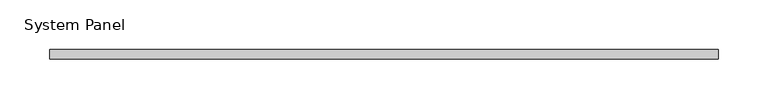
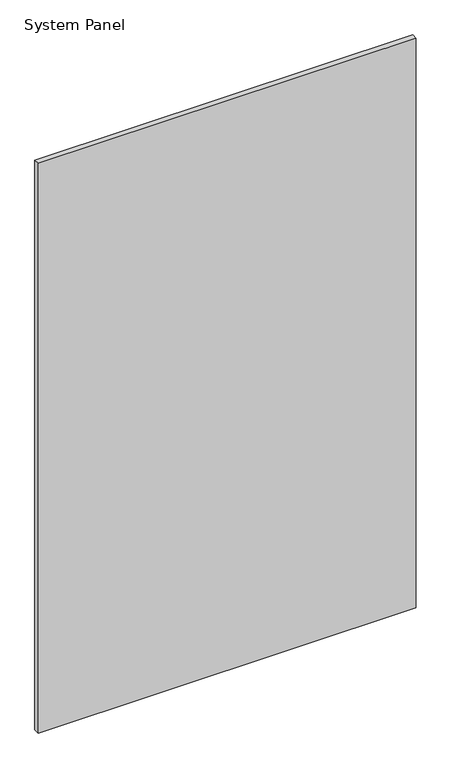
"""IFC4 building model written with IfcOpenShell, lengths in millimetres: plate geometry, System Panel : стекло_смещение_20."""

import ifcopenshell
import ifcopenshell.guid

model = None  # the IFC model being written
_history = None  # IfcOwnerHistory: only IFC2X3 demands one
_inside = {}  # id of a spatial element -> (the spatial element, [elements in it])
_under = {}  # id of a project, library or spatial element -> (it, [spatial elements below it])
_declared = {}  # id of a project -> (the project, [libraries it declares])
_typed = {}  # id of a type object -> (the type object, [elements of that type])
_made_of = {}  # id of a material, layer set ... -> (it, [elements and type objects made of it])


def new_model(schema):
    """Start an empty IFC model of exactly this schema.

    Asked for "IFC4X3", IfcOpenShell would pick the latest addendum, in which some entities
    have other attributes; the version numbers below select the first issue.
    IFC2X3 requires an IfcOwnerHistory on every rooted entity: one is made here for all.
    """
    global model, _history
    if schema == "IFC4X3":
        model = ifcopenshell.file(schema_version=(4, 3, 0, 0))
    else:
        model = ifcopenshell.file(schema=schema)
    _inside.clear()
    _under.clear()
    _declared.clear()
    _typed.clear()
    _made_of.clear()
    _history = None
    if model.schema == "IFC2X3":
        org = make("IfcOrganization", Name="unknown")
        user = make(
            "IfcPersonAndOrganization",
            ThePerson=make("IfcPerson", FamilyName="unknown"),
            TheOrganization=org,
        )
        app = make(
            "IfcApplication",
            ApplicationDeveloper=org,
            Version="unknown",
            ApplicationFullName="unknown",
            ApplicationIdentifier="unknown",
        )
        _history = make(
            "IfcOwnerHistory",
            OwningUser=user,
            OwningApplication=app,
            ChangeAction="ADDED",
            CreationDate=0,
        )
    return model


def make(cls, **values):
    """One entity of the class cls with the attributes given. An attribute that is None is left unset."""
    return model.create_entity(
        cls, **{name: value for name, value in values.items() if value is not None}
    )


def rooted(cls, **values):
    """An entity with a GlobalId (a new one), such as an element, a storey or a relation."""
    return make(cls, GlobalId=ifcopenshell.guid.new(), OwnerHistory=_history, **values)


def si_unit(unit_type, name, prefix=None):
    """IfcSIUnit, for example si_unit("LENGTHUNIT", "METRE", prefix="MILLI")."""
    return make("IfcSIUnit", UnitType=unit_type, Prefix=prefix, Name=name)


def assignment(units):
    """IfcUnitAssignment: the units of a project."""
    return None if units is None else make("IfcUnitAssignment", Units=units)


def point(xyz):
    """IfcCartesianPoint."""
    return None if xyz is None else make("IfcCartesianPoint", Coordinates=xyz)


def direction(xyz):
    """IfcDirection."""
    return None if xyz is None else make("IfcDirection", DirectionRatios=xyz)


def frame(location, z_axis=None, x_axis=None):
    """IfcAxis2Placement3D, a coordinate frame: its origin and axes. An axis left out is left unset."""
    return make(
        "IfcAxis2Placement3D",
        Location=point(location),
        Axis=direction(z_axis),
        RefDirection=direction(x_axis),
    )


def origin():
    """The frame at (0, 0, 0) with its axes left unset."""
    return frame((0.0, 0.0, 0.0))


def origin_with_axes():
    """The frame at (0, 0, 0) with the z axis (0, 0, 1) and the x axis (1, 0, 0) written out."""
    return frame((0.0, 0.0, 0.0), z_axis=(0.0, 0.0, 1.0), x_axis=(1.0, 0.0, 0.0))


def place(relative_to, where):
    """IfcLocalPlacement: puts the frame where relative to a parent placement (None: the world)."""
    return make(
        "IfcLocalPlacement", PlacementRelTo=relative_to, RelativePlacement=where
    )


def context(
    kind, dimensions, precision=None, world=None, true_north=None, identifier=None
):
    """IfcGeometricRepresentationContext, for example the 3D "Model" context."""
    return make(
        "IfcGeometricRepresentationContext",
        ContextIdentifier=identifier,
        ContextType=kind,
        CoordinateSpaceDimension=dimensions,
        Precision=precision,
        WorldCoordinateSystem=world,
        TrueNorth=true_north,
    )


def project(units=None, contexts=None):
    """IfcProject with its units and contexts."""
    return rooted(
        "IfcProject",
        Name="project",
        RepresentationContexts=contexts,
        UnitsInContext=assignment(units),
    )


def spatial(cls, under=None, at=None, **own):
    """A site, building, storey or space (cls), placed at a placement, below another one or the project."""
    s = rooted(cls, ObjectPlacement=at, **own)
    if under is not None:
        _under.setdefault(under.id(), (under, []))[1].append(s)
    return s


def polyline(points):
    """IfcPolyline through the points."""
    return make("IfcPolyline", Points=[point(p) for p in points])


def outline(outer, holes=None, kind="AREA"):
    """IfcArbitraryClosedProfileDef: a profile drawn as a closed curve; with holes, ...WithVoids."""
    if holes is None:
        return make("IfcArbitraryClosedProfileDef", ProfileType=kind, OuterCurve=outer)
    return make(
        "IfcArbitraryProfileDefWithVoids",
        ProfileType=kind,
        OuterCurve=outer,
        InnerCurves=holes,
    )


def extrude(swept, where, along, depth):
    """IfcExtrudedAreaSolid: the profile swept, set in the frame where, extruded along a direction by depth."""
    return make(
        "IfcExtrudedAreaSolid",
        SweptArea=swept,
        Position=where,
        ExtrudedDirection=direction(along),
        Depth=depth,
    )


def shape(context_of_items, identifier, shape_type, items):
    """IfcShapeRepresentation: the items that make up one representation, for example the "Body"."""
    return make(
        "IfcShapeRepresentation",
        ContextOfItems=context_of_items,
        RepresentationIdentifier=identifier,
        RepresentationType=shape_type,
        Items=items,
    )


def source(mapping_origin, context_of_items, identifier, shape_type, items):
    """IfcRepresentationMap: a shape defined once, which mapped items show again and again."""
    return make(
        "IfcRepresentationMap",
        MappingOrigin=mapping_origin,
        MappedRepresentation=shape(context_of_items, identifier, shape_type, items),
    )


def transform(
    local_origin,
    x_axis=None,
    y_axis=None,
    z_axis=None,
    scale=None,
    scale2=None,
    scale3=None,
    uniform=True,
):
    """IfcCartesianTransformationOperator3D, or its non-uniform kind. x_axis, y_axis, z_axis: its Axis1, 2, 3."""
    if uniform:
        return make(
            "IfcCartesianTransformationOperator3D",
            Axis1=direction(x_axis),
            Axis2=direction(y_axis),
            LocalOrigin=point(local_origin),
            Scale=scale,
            Axis3=direction(z_axis),
        )
    return make(
        "IfcCartesianTransformationOperator3DnonUniform",
        Axis1=direction(x_axis),
        Axis2=direction(y_axis),
        LocalOrigin=point(local_origin),
        Scale=scale,
        Axis3=direction(z_axis),
        Scale2=scale2,
        Scale3=scale3,
    )


def mapped(mapping_source, mapping_target):
    """IfcMappedItem: shows the shape of a source again, moved by a transform."""
    return make(
        "IfcMappedItem", MappingSource=mapping_source, MappingTarget=mapping_target
    )


def made_of(thing, what):
    """Note that an element or type object is made of a material, layer set ...; save() writes the relation."""
    if what is not None:
        _made_of.setdefault(what.id(), (what, []))[1].append(thing)
    return thing


def element(
    cls,
    number,
    at=None,
    inside=None,
    cuts=None,
    type_object=None,
    material=None,
    context=None,
    identifier="Body",
    shape_type=None,
    held_by="IfcProductDefinitionShape",
    body=None,
    shapes=None,
    **own,
):
    """One element of the class cls, such as IfcWall. Its Tag is "e" and its number.

    at: its placement. inside: the storey or other place that contains it. cuts: it is an
    opening in that element (IfcRelVoidsElement). A single representation is given by context,
    identifier, shape_type and body (its items); several are given by shapes. held_by: the class
    of the entity that holds the representations. save() writes the other relations.
    """
    e = rooted(cls, Tag="e%d" % number, ObjectPlacement=at, **own)
    if body is not None:
        shapes = [shape(context, identifier, shape_type, body)]
    if shapes is not None:
        e.Representation = make(held_by, Representations=shapes)
    if inside is not None:
        _inside.setdefault(inside.id(), (inside, []))[1].append(e)
    if cuts is not None:
        rooted(
            "IfcRelVoidsElement", RelatingBuildingElement=cuts, RelatedOpeningElement=e
        )
    if type_object is not None:
        _typed.setdefault(type_object.id(), (type_object, []))[1].append(e)
    return made_of(e, material)


def aggregate(whole, parts):
    """IfcRelAggregates: a whole, such as a stair, and the parts it consists of."""
    return rooted("IfcRelAggregates", RelatingObject=whole, RelatedObjects=parts)


def save(model, path):
    """Write the relations noted so far, then the file.

    IfcRelAggregates (storeys below a building ...), IfcRelContainedInSpatialStructure (elements
    in a storey), IfcRelDefinesByType, IfcRelAssociatesMaterial and IfcRelDeclares: one each for
    every whole, place, type object, material and project.
    """
    for whole, parts in _under.values():
        aggregate(whole, parts)
    for where, things in _inside.values():
        rooted(
            "IfcRelContainedInSpatialStructure",
            RelatedElements=things,
            RelatingStructure=where,
        )
    for kind, things in _typed.values():
        rooted("IfcRelDefinesByType", RelatedObjects=things, RelatingType=kind)
    for what, things in _made_of.values():
        rooted("IfcRelAssociatesMaterial", RelatedObjects=things, RelatingMaterial=what)
    for by, libraries in _declared.values():
        rooted("IfcRelDeclares", RelatingContext=by, RelatedDefinitions=libraries)
    model.write(path)


def system_panel_ab86ab11(model_context):
    return source(origin(), model_context, "Body", "SweptSolid", [
        extrude(outline(polyline([(337.5, 15.0), (-337.5, 15.0), (-337.5, 25.0), (337.5, 25.0), (337.5, 15.0)])), origin_with_axes(), (0.0, 0.0, 1.0), 1075.0),
    ])


if __name__ == "__main__":
    model = new_model("IFC4")
    model_context = context("Model", 3, world=origin())
    ifc_project = project(units=[si_unit("LENGTHUNIT", "METRE", prefix="MILLI")], contexts=[model_context])
    site = spatial("IfcSite", under=ifc_project)
    building = spatial("IfcBuilding", under=site)
    placement = place(None, origin())
    system_panel_shape = system_panel_ab86ab11(model_context)
    element("IfcPlate", 1, ObjectType="System Panel : стекло_смещение_20", at=placement, inside=building, context=model_context, shape_type="MappedRepresentation", body=[
        mapped(system_panel_shape, transform((0.0, 0.0, 0.0), x_axis=(1.0, 0.0, 0.0), y_axis=(0.0, 1.0, 0.0), z_axis=(0.0, 0.0, 1.0))),
    ])
    save(model, "model.ifc")
